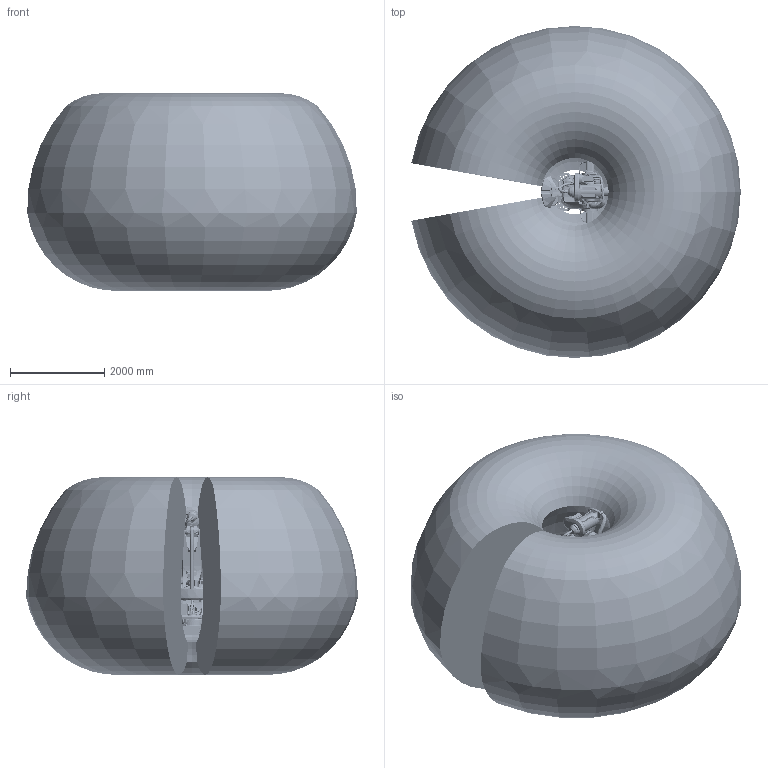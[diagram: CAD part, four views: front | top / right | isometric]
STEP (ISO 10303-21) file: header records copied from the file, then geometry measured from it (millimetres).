
FILE_DESCRIPTION (( 'STEP AP214' ), '1' );
FILE_NAME ('IRB7710-LID-SW_280kg-350_OC_01_ASM_CAD.step', '2026-01-28T09:36:29', ( '' ), ( '' ), 'SwSTEP 2.0', 'SolidWorks 2024', '' );
FILE_SCHEMA (( 'AUTOMOTIVE_DESIGN' ));
Length unit declared in the file: millimetre
Products named in the file (22): IRB7710_All_OC_00_LINK03_CAD; IRB77X0-LID_All-350_OC_01_LINK04_CABLE; IRB77X0_All_OC_00_LINK01_CABLE; IRB7710_All_OC_00_LINK03m_CABLE; IRB77X0_All_OC_00_LINK02_CAD; IRB77X0-LID-SW_All_OC_01_LINK03a_CABLE; IRB77X0_All_OC_00_LINK03b_CABLE; IRB77X0_All_OC_00_ROD_CAD; IRB77X0_All_OC_00_LINK02m_CABLE; IRB7710-LID-SW_280kg-350_OC_01_ASM_CAD; IRB77X0_All-350_OC_00_LINK05_CABLE; IRB77X0_All_OC_00_LINK01_CAD; IRB77X0_All_OC_00_LINK01m_CABLE; IRB77X0_All-350_OC_00_LINK06_CABLE; IRB77X0_All_OC_00_LINKBAR_CAD; IRB77X0_All_OC_00_CYL_CAD; IRB77X0_All_OC_00_LINK02_CABLE; IRB77X0_All-350_OC_00_LINK04_CAD; IRB77X0_All-350_OC_00_Working-space; IRB77X0_All-350_OC_00_LINK05_CAD; IRB7710_All_OC_00_LINKARM_CAD; IRB7710_All_OC_00_BASE_CAD
Assembly tree (21 placements, depth 2):
  IRB7710-LID-SW_280kg-350_OC_01_ASM_CAD
    IRB7710_All_OC_00_BASE_CAD
    IRB77X0_All_OC_00_CYL_CAD
    IRB77X0_All_OC_00_LINK01_CABLE
    IRB77X0_All_OC_00_LINK01_CAD
    IRB77X0_All_OC_00_LINK01m_CABLE
    IRB77X0_All_OC_00_LINK02_CABLE
    IRB77X0_All_OC_00_LINK02_CAD
    IRB77X0_All_OC_00_LINK02m_CABLE
    IRB77X0_All_OC_00_LINK03b_CABLE
    IRB77X0_All_OC_00_LINKBAR_CAD
    IRB77X0_All_OC_00_ROD_CAD
    IRB77X0_All-350_OC_00_LINK04_CAD
    IRB77X0_All-350_OC_00_LINK05_CABLE
    IRB77X0_All-350_OC_00_LINK05_CAD
    IRB77X0_All-350_OC_00_LINK06_CABLE
    IRB77X0-LID-SW_All_OC_01_LINK03a_CABLE
    IRB7710_All_OC_00_LINK03_CAD
    IRB7710_All_OC_00_LINK03m_CABLE
    IRB7710_All_OC_00_LINKARM_CAD
    IRB77X0_All-350_OC_00_Working-space
    IRB77X0-LID_All-350_OC_01_LINK04_CABLE
Bounding box: 6994.37 x 7047.91 x 4196.06 mm (x, y, z)
Volume: 110344309856.4 mm3; surface area: 185527801 mm2
Topology: 23 solids, 27 shells, 9033 faces, 22891 edges, 14827 vertices
Faces by surface type: plane 4568, cylinder 1931, cone 1211, bspline 984, torus 260, sphere 79
Full cylindrical faces by diameter (mm): 4.8 x8, 5 x15, 5.2 x4, 5.45 x1, 5.5 x4, 6 x16, 6.6 x4, 6.8 x32, 7 x4, 7.5 x8, 8 x8, 8.3 x2, 8.5 x15, 9.5 x4, 10 x14, 10.2 x24, 10.22 x2, 10.5 x3, 11 x6, 11.05 x2, 11.8 x2, 12 x30, 13 x4, 13.27 x48, 14 x28, 15 x2, 16 x5, 16.27 x18, 17 x8, 17.5 x10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
Entity records: 602233 total; most frequent: CARTESIAN_POINT 305325, ORIENTED_EDGE 41690, DIRECTION 37419, EDGE_CURVE 20845, VERTEX_POINT 14135, AXIS2_PLACEMENT_3D 14061, EDGE_LOOP 11494, FACE_OUTER_BOUND 9931
